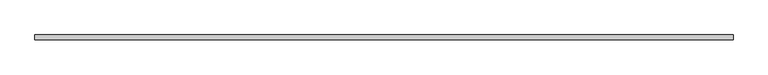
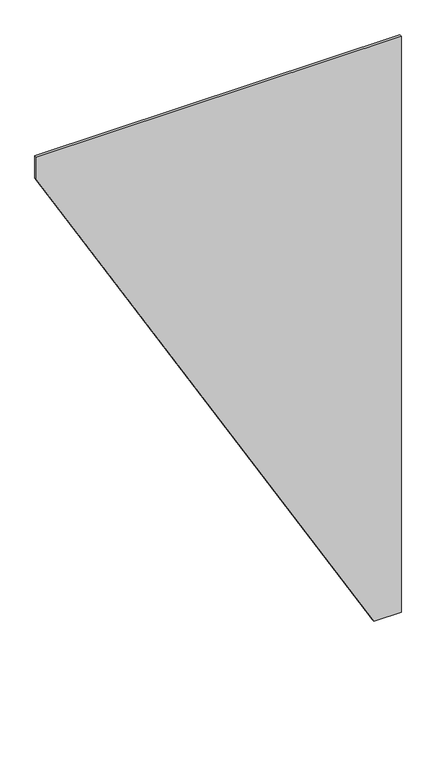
"""IFC4 building model written with IfcOpenShell, lengths in millimetres: plate geometry, 系統嵌板 : 玻璃 1.0cm."""

from ifc_helpers import new_model, si_unit, frame, origin, place, context, project, spatial, polyline, outline, extrude, source, transform, mapped, element, save


def plate_29658407(model_context):
    return source(origin(), model_context, "Body", "SweptSolid", [
        extrude(outline(polyline([(0.0, 636.7513459), (0.0, 750.0), (2500.0, 750.0), (2500.0, -750.0), (2401.9237886, -750.0), (0.0, 636.7513459)])), frame((0.0, -5.0, 0.0), z_axis=(0.0, 1.0, 0.0), x_axis=(0.0, 0.0, 1.0)), (0.0, 0.0, 1.0), 10.0),
    ])


if __name__ == "__main__":
    model = new_model("IFC4")
    model_context = context("Model", 3, world=origin())
    ifc_project = project(units=[si_unit("LENGTHUNIT", "METRE", prefix="MILLI")], contexts=[model_context])
    site = spatial("IfcSite", under=ifc_project)
    building = spatial("IfcBuilding", under=site)
    placement = place(None, origin())
    plate_shape = plate_29658407(model_context)
    element("IfcPlate", 1, ObjectType="系統嵌板 : 玻璃 1.0cm", at=placement, inside=building, context=model_context, shape_type="MappedRepresentation", body=[
        mapped(plate_shape, transform((0.0, 0.0, 0.0), x_axis=(1.0, 0.0, 0.0), y_axis=(0.0, 1.0, 0.0), z_axis=(0.0, 0.0, 1.0))),
    ])
    save(model, "model.ifc")
